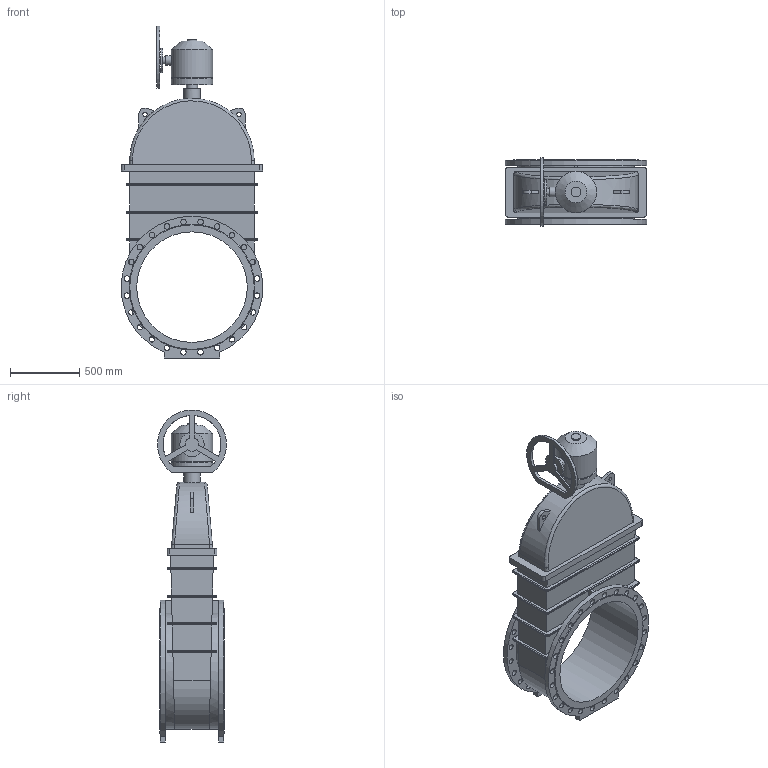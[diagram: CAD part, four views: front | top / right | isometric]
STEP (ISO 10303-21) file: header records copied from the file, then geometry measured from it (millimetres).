
FILE_DESCRIPTION(('STEP AP203'), '1');
FILE_NAME('Çàäâèæêà 47GV.Z DN800 PN10_PN16 + ðåäóêòîð ñ ìàõîâèêîì', '', ('UNSPECIFIED'), ('UNSPECIFIED'), 'ASCON STEP Converter 1.6', 'ASCON Math Kernel', '');
FILE_SCHEMA(('CONFIG_CONTROL_DESIGN'));
Length unit declared in the file: millimetre
Bounding box: 1024.56 x 498.92 x 2401.57 mm (x, y, z)
Volume: 333384781.2 mm3; surface area: 7530508.8 mm2
Topology: 1 solids, 1 shells, 322 faces, 778 edges, 495 vertices
Faces by surface type: cylinder 153, plane 132, bspline 34, cone 3
Full cylindrical faces by diameter (mm): 14 x8, 18 x8, 30 x3, 40 x48, 50 x1, 70 x2, 80 x1, 100 x1, 120 x1, 175 x1, 280 x1, 300 x2, 800 x1
Entity records: 15446 total; most frequent: CARTESIAN_POINT 5606, DIRECTION 1426, ORIENTED_EDGE 1394, EDGE_CURVE 697, AXIS2_PLACEMENT_3D 554, EDGE_LOOP 548, VERTEX_POINT 495, FACE_BOUND 387
